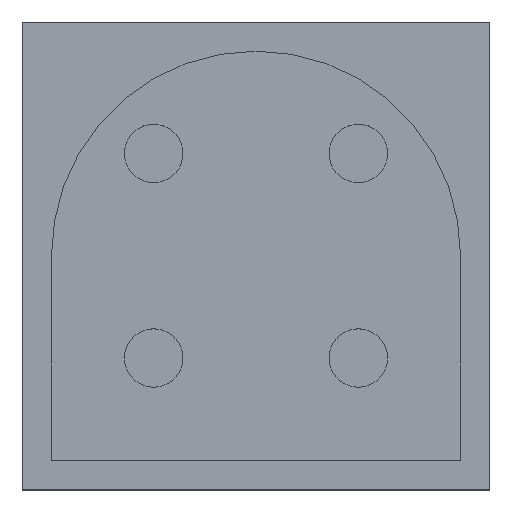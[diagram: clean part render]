
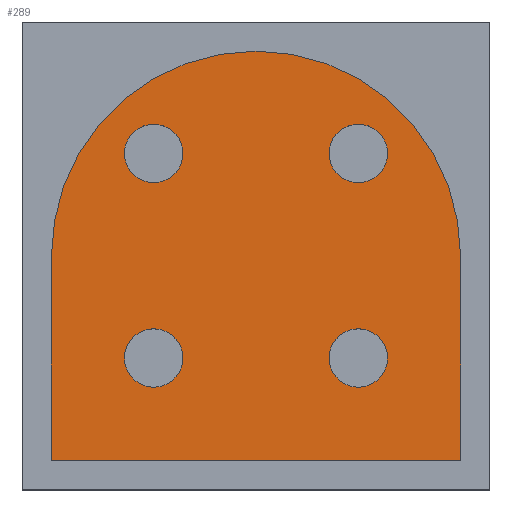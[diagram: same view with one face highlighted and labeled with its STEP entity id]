
A CAD part, top view. The second image highlights one B-rep face of the part: STEP entity #289.
In plain terms, the highlighted planar face has unit normal (0, 0, 1).
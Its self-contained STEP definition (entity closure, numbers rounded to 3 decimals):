
#21=FACE_BOUND('',#69,.T.);
#22=FACE_BOUND('',#70,.T.);
#23=FACE_BOUND('',#71,.T.);
#24=FACE_BOUND('',#72,.T.);
#26=CIRCLE('',#318,5.);
#28=CIRCLE('',#321,5.);
#30=CIRCLE('',#324,5.);
#32=CIRCLE('',#327,5.);
#34=CIRCLE('',#330,35.);
#48=FACE_OUTER_BOUND('',#68,.T.);
#68=EDGE_LOOP('',(#246,#247,#248,#249));
#69=EDGE_LOOP('',(#250));
#70=EDGE_LOOP('',(#251));
#71=EDGE_LOOP('',(#252));
#72=EDGE_LOOP('',(#253));
#94=LINE('',#462,#120);
#97=LINE('',#467,#123);
#103=LINE('',#497,#129);
#120=VECTOR('',#370,10.);
#123=VECTOR('',#375,10.);
#129=VECTOR('',#411,10.);
#142=VERTEX_POINT('',#459);
#143=VERTEX_POINT('',#461);
#144=VERTEX_POINT('',#465);
#145=VERTEX_POINT('',#469);
#147=VERTEX_POINT('',#475);
#149=VERTEX_POINT('',#481);
#151=VERTEX_POINT('',#487);
#153=VERTEX_POINT('',#493);
#171=EDGE_CURVE('',#143,#142,#94,.T.);
#174=EDGE_CURVE('',#142,#144,#97,.T.);
#175=EDGE_CURVE('',#145,#145,#26,.T.);
#178=EDGE_CURVE('',#147,#147,#28,.T.);
#181=EDGE_CURVE('',#149,#149,#30,.T.);
#184=EDGE_CURVE('',#151,#151,#32,.T.);
#187=EDGE_CURVE('',#153,#143,#34,.T.);
#189=EDGE_CURVE('',#144,#153,#103,.T.);
#246=ORIENTED_EDGE('',*,*,#189,.T.);
#247=ORIENTED_EDGE('',*,*,#187,.T.);
#248=ORIENTED_EDGE('',*,*,#171,.T.);
#249=ORIENTED_EDGE('',*,*,#174,.T.);
#250=ORIENTED_EDGE('',*,*,#184,.T.);
#251=ORIENTED_EDGE('',*,*,#181,.T.);
#252=ORIENTED_EDGE('',*,*,#178,.T.);
#253=ORIENTED_EDGE('',*,*,#175,.T.);
#270=PLANE('',#332);
#289=ADVANCED_FACE('',(#48,#21,#22,#23,#24),#270,.T.);
#318=AXIS2_PLACEMENT_3D('',#470,#378,#379);
#321=AXIS2_PLACEMENT_3D('',#476,#385,#386);
#324=AXIS2_PLACEMENT_3D('',#482,#392,#393);
#327=AXIS2_PLACEMENT_3D('',#488,#399,#400);
#330=AXIS2_PLACEMENT_3D('',#494,#406,#407);
#332=AXIS2_PLACEMENT_3D('',#498,#412,#413);
#370=DIRECTION('',(0.,-1.,0.));
#375=DIRECTION('',(1.,0.,0.));
#378=DIRECTION('center_axis',(0.,0.,-1.));
#379=DIRECTION('ref_axis',(1.,0.,0.));
#385=DIRECTION('center_axis',(0.,0.,-1.));
#386=DIRECTION('ref_axis',(1.,0.,0.));
#392=DIRECTION('center_axis',(0.,0.,-1.));
#393=DIRECTION('ref_axis',(1.,0.,0.));
#399=DIRECTION('center_axis',(0.,0.,-1.));
#400=DIRECTION('ref_axis',(1.,0.,0.));
#406=DIRECTION('center_axis',(0.,0.,1.));
#407=DIRECTION('ref_axis',(1.,0.,0.));
#411=DIRECTION('',(0.,1.,0.));
#412=DIRECTION('center_axis',(0.,0.,1.));
#413=DIRECTION('ref_axis',(1.,0.,0.));
#459=CARTESIAN_POINT('',(-35.,-35.,52.));
#461=CARTESIAN_POINT('',(-35.,0.,52.));
#462=CARTESIAN_POINT('',(-35.,0.,52.));
#465=CARTESIAN_POINT('',(35.,-35.,52.));
#467=CARTESIAN_POINT('',(-35.,-35.,52.));
#469=CARTESIAN_POINT('',(-22.5,17.5,52.));
#470=CARTESIAN_POINT('Origin',(-17.5,17.5,52.));
#475=CARTESIAN_POINT('',(12.5,17.5,52.));
#476=CARTESIAN_POINT('Origin',(17.5,17.5,52.));
#481=CARTESIAN_POINT('',(12.5,-17.5,52.));
#482=CARTESIAN_POINT('Origin',(17.5,-17.5,52.));
#487=CARTESIAN_POINT('',(-22.5,-17.5,52.));
#488=CARTESIAN_POINT('Origin',(-17.5,-17.5,52.));
#493=CARTESIAN_POINT('',(35.,0.,52.));
#494=CARTESIAN_POINT('Origin',(0.,0.,52.));
#497=CARTESIAN_POINT('',(35.,-35.,52.));
#498=CARTESIAN_POINT('Origin',(0.,0.,52.));
